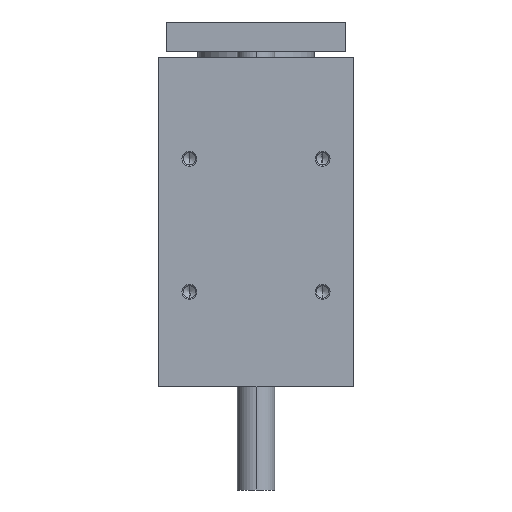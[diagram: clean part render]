
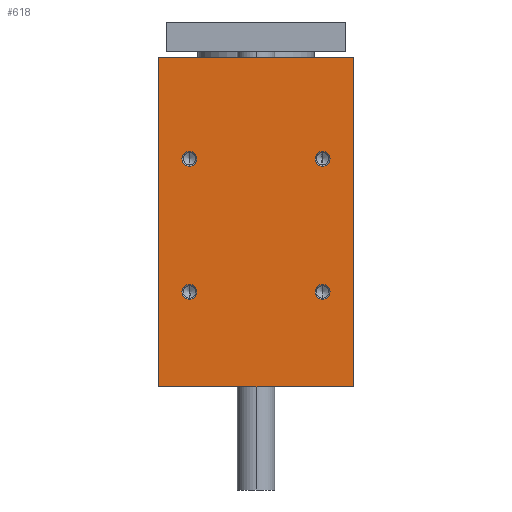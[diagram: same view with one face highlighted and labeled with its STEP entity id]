
A CAD part, left-side view. The second image highlights one B-rep face of the part: STEP entity #618.
In plain terms, the highlighted planar face has unit normal (-1, 0, 0).
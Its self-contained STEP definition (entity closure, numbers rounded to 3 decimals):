
#242 = CARTESIAN_POINT ( 'NONE',  ( -106.5, 65., -128. ) ) ;
#303 = CIRCLE ( 'NONE', #9621, 5. ) ;
#375 = CARTESIAN_POINT ( 'NONE',  ( -106.5, 44.5, -64.5 ) ) ;
#414 = EDGE_LOOP ( 'NONE', ( #6746, #5812 ) ) ;
#491 = CARTESIAN_POINT ( 'NONE',  ( -106.5, 65., 92. ) ) ;
#525 = EDGE_CURVE ( 'NONE', #4148, #2660, #7149, .T. ) ;
#618 = ADVANCED_FACE ( 'NONE', ( #4220, #7201, #8698, #9473, #5585 ), #1312, .F. ) ;
#660 = VERTEX_POINT ( 'NONE', #9522 ) ;
#675 = EDGE_CURVE ( 'NONE', #2660, #8345, #8789, .T. ) ;
#701 = DIRECTION ( 'NONE',  ( 1., 0., 0. ) ) ;
#737 = CIRCLE ( 'NONE', #2768, 5. ) ;
#776 = VERTEX_POINT ( 'NONE', #2938 ) ;
#782 = LINE ( 'NONE', #242, #2613 ) ;
#1312 = PLANE ( 'NONE',  #2346 ) ;
#1417 = EDGE_LOOP ( 'NONE', ( #2657, #7565 ) ) ;
#1443 = CARTESIAN_POINT ( 'NONE',  ( -106.5, 44.5, 24.5 ) ) ;
#1497 = EDGE_LOOP ( 'NONE', ( #3506, #4382 ) ) ;
#1822 = EDGE_LOOP ( 'NONE', ( #4831, #5024, #4534, #4286 ) ) ;
#1997 = EDGE_CURVE ( 'NONE', #660, #8819, #2268, .T. ) ;
#2013 = CARTESIAN_POINT ( 'NONE',  ( -106.5, -44.5, -59.5 ) ) ;
#2124 = DIRECTION ( 'NONE',  ( 1., 0., 0. ) ) ;
#2190 = VECTOR ( 'NONE', #8551, 1000. ) ;
#2268 = CIRCLE ( 'NONE', #3832, 5. ) ;
#2282 = ORIENTED_EDGE ( 'NONE', *, *, #3023, .T. ) ;
#2346 = AXIS2_PLACEMENT_3D ( 'NONE', #6359, #5049, #2806 ) ;
#2385 = VERTEX_POINT ( 'NONE', #2013 ) ;
#2440 = DIRECTION ( 'NONE',  ( 0., 0., -1. ) ) ;
#2515 = DIRECTION ( 'NONE',  ( 0., 0., -1. ) ) ;
#2546 = EDGE_CURVE ( 'NONE', #3444, #9096, #737, .T. ) ;
#2613 = VECTOR ( 'NONE', #6920, 1000. ) ;
#2650 = CARTESIAN_POINT ( 'NONE',  ( -106.5, 44.5, 29.5 ) ) ;
#2657 = ORIENTED_EDGE ( 'NONE', *, *, #5035, .T. ) ;
#2660 = VERTEX_POINT ( 'NONE', #3920 ) ;
#2768 = AXIS2_PLACEMENT_3D ( 'NONE', #3285, #6934, #2440 ) ;
#2806 = DIRECTION ( 'NONE',  ( 0., 1., 0. ) ) ;
#2929 = AXIS2_PLACEMENT_3D ( 'NONE', #7501, #6728, #3018 ) ;
#2938 = CARTESIAN_POINT ( 'NONE',  ( -106.5, -44.5, 19.5 ) ) ;
#3018 = DIRECTION ( 'NONE',  ( 0., 0., -1. ) ) ;
#3023 = EDGE_CURVE ( 'NONE', #776, #7363, #7756, .T. ) ;
#3133 = VECTOR ( 'NONE', #4918, 1000. ) ;
#3164 = DIRECTION ( 'NONE',  ( 1., 0., 0. ) ) ;
#3285 = CARTESIAN_POINT ( 'NONE',  ( -106.5, 44.5, 24.5 ) ) ;
#3350 = CARTESIAN_POINT ( 'NONE',  ( -106.5, 44.5, -64.5 ) ) ;
#3366 = CARTESIAN_POINT ( 'NONE',  ( -106.5, -44.5, -64.5 ) ) ;
#3400 = CARTESIAN_POINT ( 'NONE',  ( -106.5, -65., 92. ) ) ;
#3444 = VERTEX_POINT ( 'NONE', #6953 ) ;
#3504 = CARTESIAN_POINT ( 'NONE',  ( -106.5, -44.5, 24.5 ) ) ;
#3506 = ORIENTED_EDGE ( 'NONE', *, *, #1997, .T. ) ;
#3705 = AXIS2_PLACEMENT_3D ( 'NONE', #5726, #7279, #8697 ) ;
#3772 = CARTESIAN_POINT ( 'NONE',  ( -106.5, -65., -128. ) ) ;
#3813 = DIRECTION ( 'NONE',  ( 0., 0., 1. ) ) ;
#3832 = AXIS2_PLACEMENT_3D ( 'NONE', #375, #6360, #2515 ) ;
#3920 = CARTESIAN_POINT ( 'NONE',  ( -106.5, -65., -128. ) ) ;
#3939 = EDGE_CURVE ( 'NONE', #4148, #5155, #782, .T. ) ;
#3970 = CARTESIAN_POINT ( 'NONE',  ( -106.5, 65., 92. ) ) ;
#4048 = EDGE_CURVE ( 'NONE', #9519, #2385, #8196, .T. ) ;
#4148 = VERTEX_POINT ( 'NONE', #8625 ) ;
#4220 = FACE_OUTER_BOUND ( 'NONE', #1822, .T. ) ;
#4286 = ORIENTED_EDGE ( 'NONE', *, *, #525, .T. ) ;
#4382 = ORIENTED_EDGE ( 'NONE', *, *, #6002, .T. ) ;
#4534 = ORIENTED_EDGE ( 'NONE', *, *, #3939, .F. ) ;
#4831 = ORIENTED_EDGE ( 'NONE', *, *, #675, .T. ) ;
#4872 = CARTESIAN_POINT ( 'NONE',  ( -106.5, -44.5, -69.5 ) ) ;
#4918 = DIRECTION ( 'NONE',  ( 0., -1., 0. ) ) ;
#4954 = AXIS2_PLACEMENT_3D ( 'NONE', #3366, #6328, #7845 ) ;
#4965 = EDGE_CURVE ( 'NONE', #2385, #9519, #5586, .T. ) ;
#5024 = ORIENTED_EDGE ( 'NONE', *, *, #7265, .F. ) ;
#5035 = EDGE_CURVE ( 'NONE', #9096, #3444, #7752, .T. ) ;
#5049 = DIRECTION ( 'NONE',  ( 1., 0., 0. ) ) ;
#5111 = EDGE_LOOP ( 'NONE', ( #7023, #2282 ) ) ;
#5155 = VERTEX_POINT ( 'NONE', #3970 ) ;
#5585 = FACE_BOUND ( 'NONE', #1417, .T. ) ;
#5586 = CIRCLE ( 'NONE', #3705, 5. ) ;
#5696 = LINE ( 'NONE', #491, #3133 ) ;
#5726 = CARTESIAN_POINT ( 'NONE',  ( -106.5, -44.5, -64.5 ) ) ;
#5812 = ORIENTED_EDGE ( 'NONE', *, *, #4048, .T. ) ;
#5964 = DIRECTION ( 'NONE',  ( 0., 0., -1. ) ) ;
#6002 = EDGE_CURVE ( 'NONE', #8819, #660, #303, .T. ) ;
#6328 = DIRECTION ( 'NONE',  ( 1., 0., 0. ) ) ;
#6359 = CARTESIAN_POINT ( 'NONE',  ( -106.5, 65., -128. ) ) ;
#6360 = DIRECTION ( 'NONE',  ( 1., 0., 0. ) ) ;
#6510 = AXIS2_PLACEMENT_3D ( 'NONE', #1443, #701, #5964 ) ;
#6671 = AXIS2_PLACEMENT_3D ( 'NONE', #3504, #2124, #8841 ) ;
#6728 = DIRECTION ( 'NONE',  ( 1., 0., 0. ) ) ;
#6738 = CARTESIAN_POINT ( 'NONE',  ( -106.5, 44.5, -69.5 ) ) ;
#6746 = ORIENTED_EDGE ( 'NONE', *, *, #4965, .T. ) ;
#6920 = DIRECTION ( 'NONE',  ( 0., 0., 1. ) ) ;
#6934 = DIRECTION ( 'NONE',  ( 1., 0., 0. ) ) ;
#6953 = CARTESIAN_POINT ( 'NONE',  ( -106.5, 44.5, 19.5 ) ) ;
#7023 = ORIENTED_EDGE ( 'NONE', *, *, #9560, .T. ) ;
#7149 = LINE ( 'NONE', #8606, #2190 ) ;
#7201 = FACE_BOUND ( 'NONE', #414, .T. ) ;
#7265 = EDGE_CURVE ( 'NONE', #5155, #8345, #5696, .T. ) ;
#7279 = DIRECTION ( 'NONE',  ( 1., 0., 0. ) ) ;
#7363 = VERTEX_POINT ( 'NONE', #7986 ) ;
#7501 = CARTESIAN_POINT ( 'NONE',  ( -106.5, -44.5, 24.5 ) ) ;
#7536 = DIRECTION ( 'NONE',  ( 0., 0., -1. ) ) ;
#7565 = ORIENTED_EDGE ( 'NONE', *, *, #2546, .T. ) ;
#7752 = CIRCLE ( 'NONE', #6510, 5. ) ;
#7756 = CIRCLE ( 'NONE', #2929, 5. ) ;
#7845 = DIRECTION ( 'NONE',  ( 0., 0., -1. ) ) ;
#7986 = CARTESIAN_POINT ( 'NONE',  ( -106.5, -44.5, 29.5 ) ) ;
#8196 = CIRCLE ( 'NONE', #4954, 5. ) ;
#8252 = VECTOR ( 'NONE', #3813, 1000. ) ;
#8345 = VERTEX_POINT ( 'NONE', #3400 ) ;
#8551 = DIRECTION ( 'NONE',  ( 0., -1., 0. ) ) ;
#8606 = CARTESIAN_POINT ( 'NONE',  ( -106.5, 65., -128. ) ) ;
#8625 = CARTESIAN_POINT ( 'NONE',  ( -106.5, 65., -128. ) ) ;
#8696 = CIRCLE ( 'NONE', #6671, 5. ) ;
#8697 = DIRECTION ( 'NONE',  ( 0., 0., -1. ) ) ;
#8698 = FACE_BOUND ( 'NONE', #1497, .T. ) ;
#8789 = LINE ( 'NONE', #3772, #8252 ) ;
#8819 = VERTEX_POINT ( 'NONE', #6738 ) ;
#8841 = DIRECTION ( 'NONE',  ( 0., 0., -1. ) ) ;
#9096 = VERTEX_POINT ( 'NONE', #2650 ) ;
#9473 = FACE_BOUND ( 'NONE', #5111, .T. ) ;
#9519 = VERTEX_POINT ( 'NONE', #4872 ) ;
#9522 = CARTESIAN_POINT ( 'NONE',  ( -106.5, 44.5, -59.5 ) ) ;
#9560 = EDGE_CURVE ( 'NONE', #7363, #776, #8696, .T. ) ;
#9621 = AXIS2_PLACEMENT_3D ( 'NONE', #3350, #3164, #7536 ) ;
